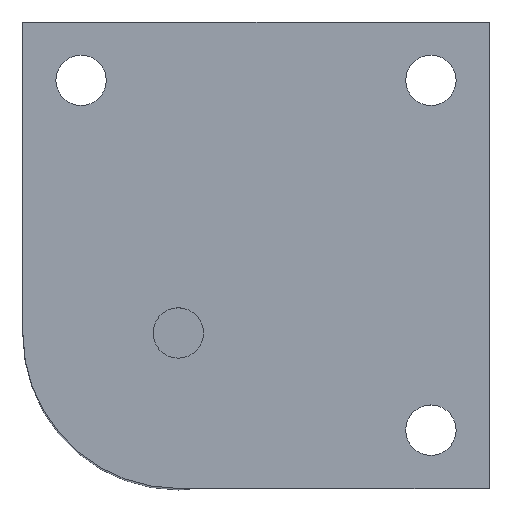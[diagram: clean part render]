
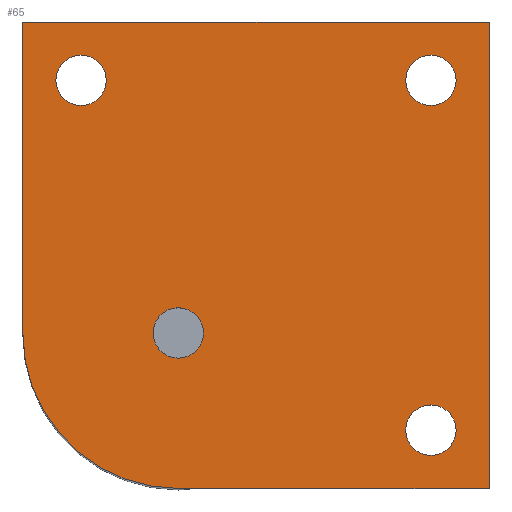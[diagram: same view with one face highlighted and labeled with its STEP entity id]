
A CAD part, top view. The second image highlights one B-rep face of the part: STEP entity #65.
In plain terms, the highlighted planar face has unit normal (0, 0, 1).
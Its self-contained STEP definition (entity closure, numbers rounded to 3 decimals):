
#65 = ADVANCED_FACE( '', ( #134, #135, #136, #137, #138 ), #139, .T. );
#134 = FACE_BOUND( '', #200, .T. );
#135 = FACE_BOUND( '', #201, .T. );
#136 = FACE_BOUND( '', #202, .T. );
#137 = FACE_BOUND( '', #203, .T. );
#138 = FACE_OUTER_BOUND( '', #204, .T. );
#139 = PLANE( '', #205 );
#200 = EDGE_LOOP( '', ( #305 ) );
#201 = EDGE_LOOP( '', ( #306 ) );
#202 = EDGE_LOOP( '', ( #307 ) );
#203 = EDGE_LOOP( '', ( #308 ) );
#204 = EDGE_LOOP( '', ( #309, #310, #311, #312, #313 ) );
#205 = AXIS2_PLACEMENT_3D( '', #314, #315, #316 );
#305 = ORIENTED_EDGE( '', *, *, #340, .F. );
#306 = ORIENTED_EDGE( '', *, *, #362, .F. );
#307 = ORIENTED_EDGE( '', *, *, #333, .F. );
#308 = ORIENTED_EDGE( '', *, *, #338, .F. );
#309 = ORIENTED_EDGE( '', *, *, #351, .T. );
#310 = ORIENTED_EDGE( '', *, *, #355, .T. );
#311 = ORIENTED_EDGE( '', *, *, #342, .T. );
#312 = ORIENTED_EDGE( '', *, *, #346, .T. );
#313 = ORIENTED_EDGE( '', *, *, #359, .T. );
#314 = CARTESIAN_POINT( '', ( -32.5, -32.5, 0. ) );
#315 = DIRECTION( '', ( 0., 0., 1. ) );
#316 = DIRECTION( '', ( 1., 0., 0. ) );
#333 = EDGE_CURVE( '', #382, #382, #383, .T. );
#338 = EDGE_CURVE( '', #390, #390, #391, .T. );
#340 = EDGE_CURVE( '', #393, #393, #394, .T. );
#342 = EDGE_CURVE( '', #396, #397, #398, .T. );
#346 = EDGE_CURVE( '', #397, #402, #403, .T. );
#351 = EDGE_CURVE( '', #409, #410, #411, .T. );
#355 = EDGE_CURVE( '', #410, #396, #415, .T. );
#359 = EDGE_CURVE( '', #402, #409, #420, .T. );
#362 = EDGE_CURVE( '', #423, #423, #424, .T. );
#382 = VERTEX_POINT( '', #448 );
#383 = CIRCLE( '', #449, 3.24 );
#390 = VERTEX_POINT( '', #456 );
#391 = CIRCLE( '', #457, 3.24 );
#393 = VERTEX_POINT( '', #459 );
#394 = CIRCLE( '', #460, 3.24 );
#396 = VERTEX_POINT( '', #462 );
#397 = VERTEX_POINT( '', #463 );
#398 = LINE( '', #464, #465 );
#402 = VERTEX_POINT( '', #471 );
#403 = LINE( '', #472, #473 );
#409 = VERTEX_POINT( '', #480 );
#410 = VERTEX_POINT( '', #481 );
#411 = LINE( '', #482, #483 );
#415 = CIRCLE( '', #489, 20. );
#420 = LINE( '', #494, #495 );
#423 = VERTEX_POINT( '', #498 );
#424 = CIRCLE( '', #499, 3.24 );
#448 = CARTESIAN_POINT( '', ( 3.24, -45., 0. ) );
#449 = AXIS2_PLACEMENT_3D( '', #517, #518, #519 );
#456 = CARTESIAN_POINT( '', ( 3.24, 0., 0. ) );
#457 = AXIS2_PLACEMENT_3D( '', #526, #527, #528 );
#459 = CARTESIAN_POINT( '', ( -41.76, 0., 0. ) );
#460 = AXIS2_PLACEMENT_3D( '', #529, #530, #531 );
#462 = CARTESIAN_POINT( '', ( -32.5, -52.5, 0. ) );
#463 = CARTESIAN_POINT( '', ( 7.5, -52.5, 0. ) );
#464 = CARTESIAN_POINT( '', ( -32.5, -52.5, 0. ) );
#465 = VECTOR( '', #532, 1000. );
#471 = CARTESIAN_POINT( '', ( 7.5, 7.5, 0. ) );
#472 = CARTESIAN_POINT( '', ( 7.5, -52.5, 0. ) );
#473 = VECTOR( '', #535, 1000. );
#480 = CARTESIAN_POINT( '', ( -52.5, 7.5, 0. ) );
#481 = CARTESIAN_POINT( '', ( -52.5, -32.5, 0. ) );
#482 = CARTESIAN_POINT( '', ( -52.5, 7.5, 0. ) );
#483 = VECTOR( '', #540, 1000. );
#489 = AXIS2_PLACEMENT_3D( '', #543, #544, #545 );
#494 = CARTESIAN_POINT( '', ( 7.5, 7.5, 0. ) );
#495 = VECTOR( '', #549, 1000. );
#498 = CARTESIAN_POINT( '', ( -29.26, -32.5, 0. ) );
#499 = AXIS2_PLACEMENT_3D( '', #550, #551, #552 );
#517 = CARTESIAN_POINT( '', ( 0., -45., 0. ) );
#518 = DIRECTION( '', ( 0., 0., 1. ) );
#519 = DIRECTION( '', ( 1., 0., 0. ) );
#526 = CARTESIAN_POINT( '', ( 0., 0., 0. ) );
#527 = DIRECTION( '', ( 0., 0., 1. ) );
#528 = DIRECTION( '', ( 1., 0., 0. ) );
#529 = CARTESIAN_POINT( '', ( -45., 0., 0. ) );
#530 = DIRECTION( '', ( 0., 0., 1. ) );
#531 = DIRECTION( '', ( 1., 0., 0. ) );
#532 = DIRECTION( '', ( 1., 0., 0. ) );
#535 = DIRECTION( '', ( 0., 1., 0. ) );
#540 = DIRECTION( '', ( 0., -1., 0. ) );
#543 = CARTESIAN_POINT( '', ( -32.5, -32.5, 0. ) );
#544 = DIRECTION( '', ( 0., 0., 1. ) );
#545 = DIRECTION( '', ( 1., 0., 0. ) );
#549 = DIRECTION( '', ( -1., 0., 0. ) );
#550 = CARTESIAN_POINT( '', ( -32.5, -32.5, 0. ) );
#551 = DIRECTION( '', ( 0., 0., 1. ) );
#552 = DIRECTION( '', ( 1., 0., 0. ) );
